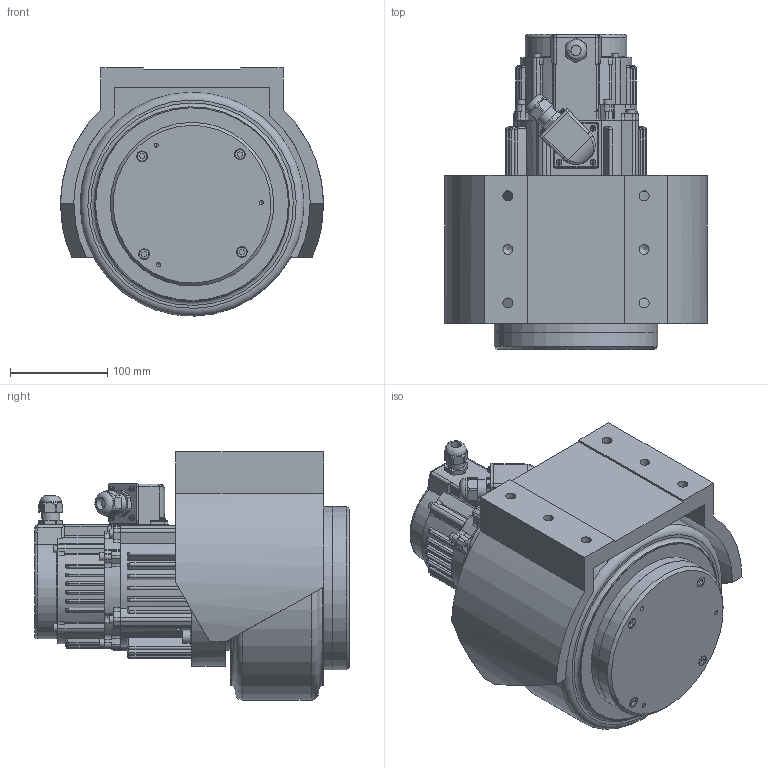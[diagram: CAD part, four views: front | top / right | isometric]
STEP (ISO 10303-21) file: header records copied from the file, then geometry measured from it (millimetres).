
FILE_DESCRIPTION(('STEP AP203'),'1');
FILE_NAME('AWRII075B-P.stp','2024-08-20T02:30:45',(' '),(' '),'Spatial InterOp 3D',' ',' ');
FILE_SCHEMA(('CONFIG_CONTROL_DESIGN'));
Length unit declared in the file: millimetre
Products named in the file (1): AWRII075B-P
Bounding box: 269.99 x 323.5 x 254.97 mm (x, y, z)
Volume: 8703023.2 mm3; surface area: 560661.5 mm2
Topology: 1 solids, 42 shells, 1382 faces, 3515 edges, 2307 vertices
Faces by surface type: plane 739, cylinder 477, cone 86, bspline 60, sphere 10, torus 10
Full cylindrical faces by diameter (mm): 2.5 x4, 3 x7, 3.3 x4, 3.5 x6, 4 x4, 4.2 x26, 4.5 x4, 5 x12, 5.5 x8, 5.6 x7, 6 x4, 6.5 x4, 6.75 x4, 7 x4, 8 x4, 8.4 x4, 8.5 x14, 9 x4, 9.5 x4, 10 x12, 10.25 x4, 10.4 x4, 10.5 x1, 11 x4, 12.5 x1, 13 x4, 16 x4, 18.6 x2, 18.631 x1, 20.4 x2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
Entity records: 48719 total; most frequent: CARTESIAN_POINT 16600, DIRECTION 6720, ORIENTED_EDGE 6288, EDGE_CURVE 3144, AXIS2_PLACEMENT_3D 2574, VERTEX_POINT 2207, EDGE_LOOP 1767, LINE 1572
